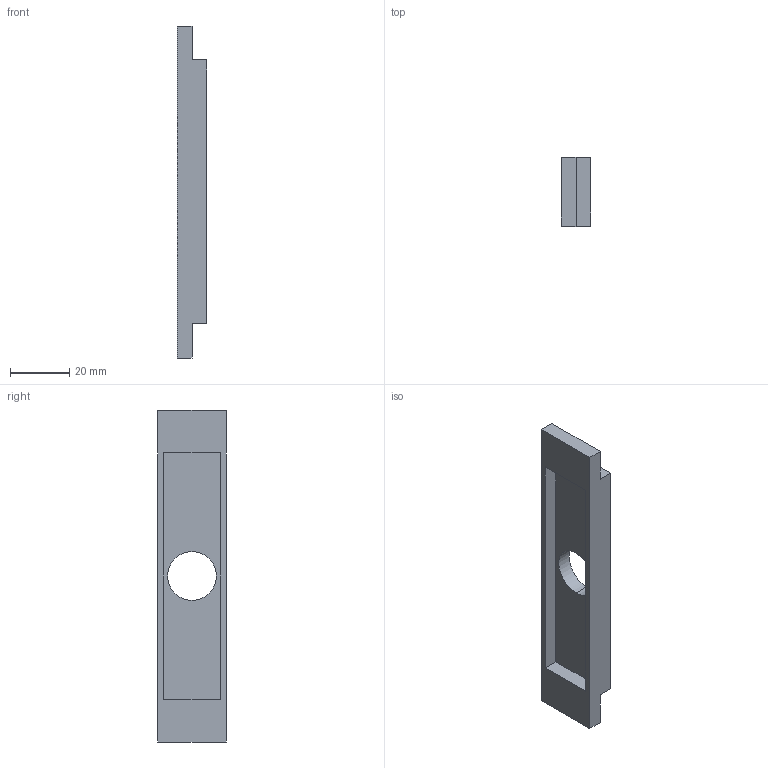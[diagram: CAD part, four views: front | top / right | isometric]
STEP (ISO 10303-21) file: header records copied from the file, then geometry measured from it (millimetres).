
FILE_DESCRIPTION (( 'STEP AP214' ), '1' );
FILE_NAME ('Test paper slot.STEP', '2026-04-21T03:19:11', ( '' ), ( '' ), 'SwSTEP 2.0', 'SolidWorks 2024', '' );
FILE_SCHEMA (( 'AUTOMOTIVE_DESIGN' ));
Length unit declared in the file: millimetre
Products named in the file (1): Test paper slot
Bounding box: 10 x 23.2 x 112 mm (x, y, z)
Volume: 14296.7 mm3; surface area: 8528.3 mm2
Topology: 1 solids, 1 shells, 17 faces, 42 edges, 28 vertices
Faces by surface type: plane 15, cylinder 2
Entity records: 714 total; most frequent: CARTESIAN_POINT 88, ORIENTED_EDGE 84, DIRECTION 82, EDGE_CURVE 42, VECTOR 38, LINE 38, VERTEX_POINT 28, AXIS2_PLACEMENT_3D 22
